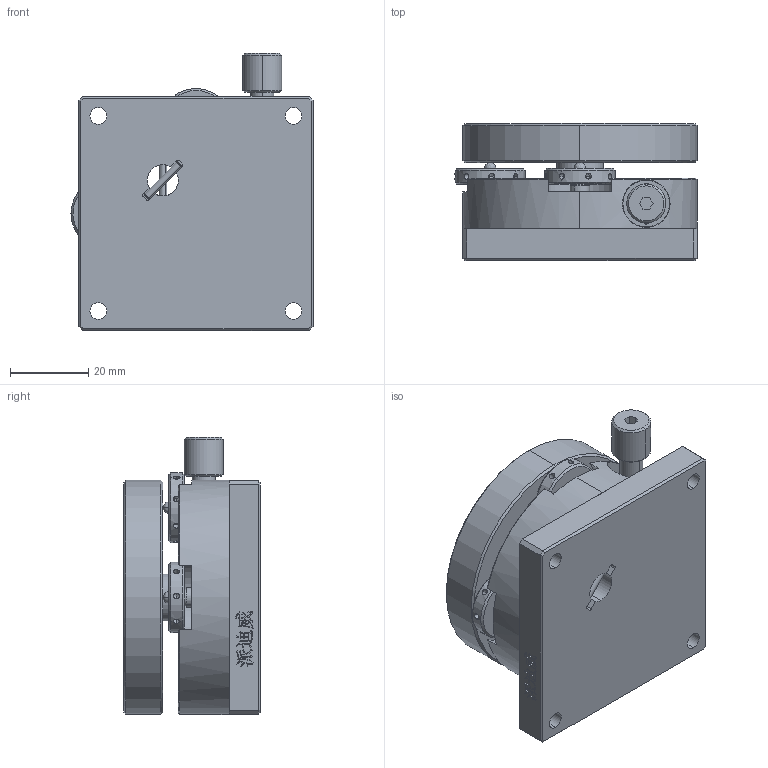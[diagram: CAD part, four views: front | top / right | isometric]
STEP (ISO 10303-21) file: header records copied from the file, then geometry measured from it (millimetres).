
FILE_DESCRIPTION (( 'STEP AP214' ), '1' );
FILE_NAME ('PT-SR60.STEP', '2023-05-07T06:03:09', ( '' ), ( '' ), 'SwSTEP 2.0', 'SolidWorks 2017', '' );
FILE_SCHEMA (( 'AUTOMOTIVE_DESIGN' ));
Length unit declared in the file: millimetre
Products named in the file (2): PT-SR60
Bounding box: 62 x 35 x 71 mm (x, y, z)
Volume: 87819.1 mm3; surface area: 30158.8 mm2
Topology: 16 solids, 16 shells, 627 faces, 1575 edges, 965 vertices
Faces by surface type: plane 224, cylinder 186, cone 117, bspline 100
Entity records: 29551 total; most frequent: CARTESIAN_POINT 8296, ORIENTED_EDGE 2994, DIRECTION 2734, EDGE_CURVE 1497, AXIS2_PLACEMENT_3D 977, VERTEX_POINT 965, VECTOR 780, LINE 780
